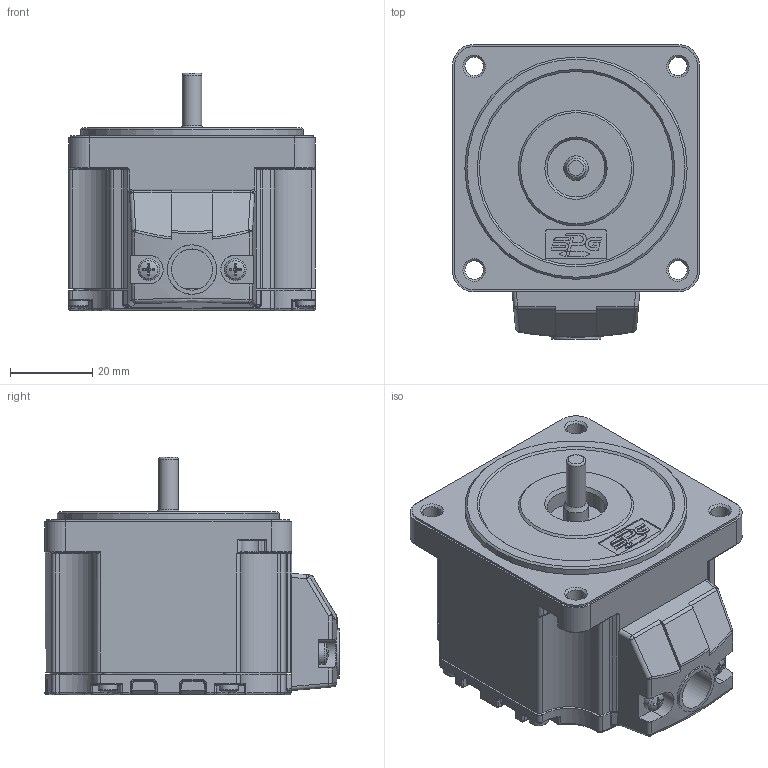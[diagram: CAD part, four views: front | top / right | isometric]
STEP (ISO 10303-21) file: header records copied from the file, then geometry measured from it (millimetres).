
FILE_DESCRIPTION((''),'2;1');
FILE_NAME('C:\Documents and Settings\Administrator\바탕 화면\BLDC 3D FILE\GEAR HEAD ASS''Y\60\MOTOR\60\60-G TYPE.stp','2014-06-19T12:51:06',('kdhkdh'),(''),'Autodesk Inventor 2011','Autodesk Inventor 2011','');
FILE_SCHEMA(('AUTOMOTIVE_DESIGN { 1 0 10303 214 1 1 1 1 }'));
Length unit declared in the file: millimetre
Products named in the file (1): 부품6
Bounding box: 60 x 71.5 x 57.7 mm (x, y, z)
Volume: 141175.9 mm3; surface area: 26593.1 mm2
Topology: 1 solids, 4 shells, 827 faces, 2055 edges, 1223 vertices
Faces by surface type: cylinder 282, plane 215, torus 132, bspline 95, cone 83, sphere 20
Full cylindrical faces by diameter (mm): 2.256 x4, 2.5 x4, 2.6 x4, 2.729 x2, 3 x6, 3.5 x2, 4.5 x4, 4.7 x4, 4.76 x1, 5.3 x2, 6 x1, 10 x1, 12 x1, 14 x1, 46 x1, 54 x1, 57.5 x2
Entity records: 26743 total; most frequent: CARTESIAN_POINT 7761, DIRECTION 4085, ORIENTED_EDGE 3810, EDGE_CURVE 1905, AXIS2_PLACEMENT_3D 1699, VERTEX_POINT 1190, EDGE_LOOP 950, CIRCLE 882
